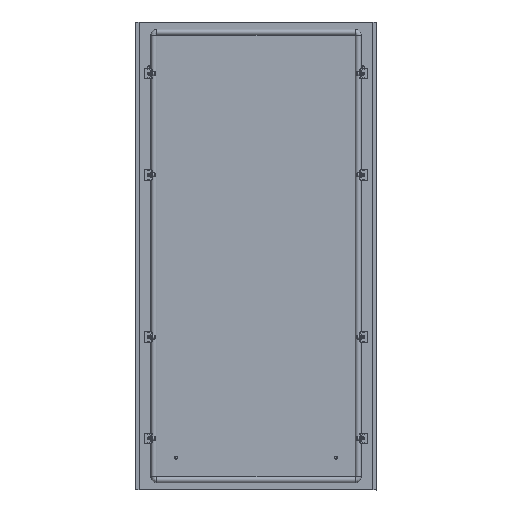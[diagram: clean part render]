
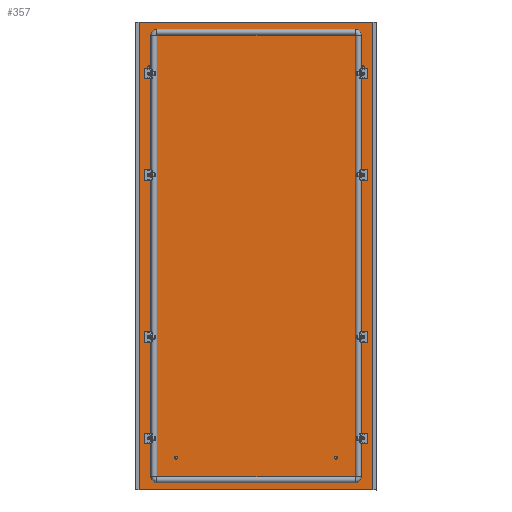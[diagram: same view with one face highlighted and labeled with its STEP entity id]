
A CAD part, top view. The second image highlights one B-rep face of the part: STEP entity #357.
In plain terms, the highlighted planar face has unit normal (0, 0, 1).
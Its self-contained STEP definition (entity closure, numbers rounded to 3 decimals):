
#357 = ADVANCED_FACE('',(#358,#456,#467,#478,#498,#518,#529,#540,#560),
  #580,.F.);
#358 = FACE_BOUND('',#359,.T.);
#359 = EDGE_LOOP('',(#360,#370,#378,#386,#394,#402,#410,#418,#426,#434,
    #442,#450));
#360 = ORIENTED_EDGE('',*,*,#361,.F.);
#361 = EDGE_CURVE('',#362,#364,#366,.T.);
#362 = VERTEX_POINT('',#363);
#363 = CARTESIAN_POINT('',(-295.5,577.5,0.));
#364 = VERTEX_POINT('',#365);
#365 = CARTESIAN_POINT('',(-295.3,577.5,0.));
#366 = LINE('',#367,#368);
#367 = CARTESIAN_POINT('',(0.,577.5,0.)
  );
#368 = VECTOR('',#369,1.);
#369 = DIRECTION('',(1.,0.,0.));
#370 = ORIENTED_EDGE('',*,*,#371,.T.);
#371 = EDGE_CURVE('',#362,#372,#374,.T.);
#372 = VERTEX_POINT('',#373);
#373 = CARTESIAN_POINT('',(-295.5,-577.5,
    0.));
#374 = LINE('',#375,#376);
#375 = CARTESIAN_POINT('',(-295.5,0.,
    0.));
#376 = VECTOR('',#377,1.);
#377 = DIRECTION('',(0.,-1.,0.));
#378 = ORIENTED_EDGE('',*,*,#379,.T.);
#379 = EDGE_CURVE('',#372,#380,#382,.T.);
#380 = VERTEX_POINT('',#381);
#381 = CARTESIAN_POINT('',(-295.3,-577.5,
    0.));
#382 = LINE('',#383,#384);
#383 = CARTESIAN_POINT('',(0.,-577.5,
    0.));
#384 = VECTOR('',#385,1.);
#385 = DIRECTION('',(1.,-0.,-0.));
#386 = ORIENTED_EDGE('',*,*,#387,.F.);
#387 = EDGE_CURVE('',#388,#380,#390,.T.);
#388 = VERTEX_POINT('',#389);
#389 = CARTESIAN_POINT('',(-295.3,-576.,
    0.));
#390 = LINE('',#391,#392);
#391 = CARTESIAN_POINT('',(-295.3,0.,
    0.));
#392 = VECTOR('',#393,1.);
#393 = DIRECTION('',(0.,-1.,0.));
#394 = ORIENTED_EDGE('',*,*,#395,.T.);
#395 = EDGE_CURVE('',#388,#396,#398,.T.);
#396 = VERTEX_POINT('',#397);
#397 = CARTESIAN_POINT('',(295.3,-576.,
    0.));
#398 = LINE('',#399,#400);
#399 = CARTESIAN_POINT('',(0.,-576.,
    0.));
#400 = VECTOR('',#401,1.);
#401 = DIRECTION('',(1.,-0.,-0.));
#402 = ORIENTED_EDGE('',*,*,#403,.T.);
#403 = EDGE_CURVE('',#396,#404,#406,.T.);
#404 = VERTEX_POINT('',#405);
#405 = CARTESIAN_POINT('',(295.3,-577.5,0.));
#406 = LINE('',#407,#408);
#407 = CARTESIAN_POINT('',(295.3,-576.,
    0.));
#408 = VECTOR('',#409,1.);
#409 = DIRECTION('',(0.,-1.,0.));
#410 = ORIENTED_EDGE('',*,*,#411,.F.);
#411 = EDGE_CURVE('',#412,#404,#414,.T.);
#412 = VERTEX_POINT('',#413);
#413 = CARTESIAN_POINT('',(295.5,-577.5,0.));
#414 = LINE('',#415,#416);
#415 = CARTESIAN_POINT('',(0.,-577.5,0.)
  );
#416 = VECTOR('',#417,1.);
#417 = DIRECTION('',(-1.,0.,0.));
#418 = ORIENTED_EDGE('',*,*,#419,.T.);
#419 = EDGE_CURVE('',#412,#420,#422,.T.);
#420 = VERTEX_POINT('',#421);
#421 = CARTESIAN_POINT('',(295.5,577.5,0.));
#422 = LINE('',#423,#424);
#423 = CARTESIAN_POINT('',(295.5,0.,0.));
#424 = VECTOR('',#425,1.);
#425 = DIRECTION('',(0.,1.,0.));
#426 = ORIENTED_EDGE('',*,*,#427,.T.);
#427 = EDGE_CURVE('',#420,#428,#430,.T.);
#428 = VERTEX_POINT('',#429);
#429 = CARTESIAN_POINT('',(295.3,577.5,0.));
#430 = LINE('',#431,#432);
#431 = CARTESIAN_POINT('',(0.,577.5,0.)
  );
#432 = VECTOR('',#433,1.);
#433 = DIRECTION('',(-1.,0.,0.));
#434 = ORIENTED_EDGE('',*,*,#435,.F.);
#435 = EDGE_CURVE('',#436,#428,#438,.T.);
#436 = VERTEX_POINT('',#437);
#437 = CARTESIAN_POINT('',(295.3,576.,0.));
#438 = LINE('',#439,#440);
#439 = CARTESIAN_POINT('',(295.3,0.,
    0.));
#440 = VECTOR('',#441,1.);
#441 = DIRECTION('',(0.,1.,0.));
#442 = ORIENTED_EDGE('',*,*,#443,.T.);
#443 = EDGE_CURVE('',#436,#444,#446,.T.);
#444 = VERTEX_POINT('',#445);
#445 = CARTESIAN_POINT('',(-295.3,576.,0.));
#446 = LINE('',#447,#448);
#447 = CARTESIAN_POINT('',(0.,576.,0.));
#448 = VECTOR('',#449,1.);
#449 = DIRECTION('',(-1.,0.,0.));
#450 = ORIENTED_EDGE('',*,*,#451,.T.);
#451 = EDGE_CURVE('',#444,#364,#452,.T.);
#452 = LINE('',#453,#454);
#453 = CARTESIAN_POINT('',(-295.3,576.,0.));
#454 = VECTOR('',#455,1.);
#455 = DIRECTION('',(0.,1.,0.));
#456 = FACE_BOUND('',#457,.T.);
#457 = EDGE_LOOP('',(#458));
#458 = ORIENTED_EDGE('',*,*,#459,.T.);
#459 = EDGE_CURVE('',#460,#460,#462,.T.);
#460 = VERTEX_POINT('',#461);
#461 = CARTESIAN_POINT('',(-264.5,-195.25,
    0.));
#462 = CIRCLE('',#463,4.75);
#463 = AXIS2_PLACEMENT_3D('',#464,#465,#466);
#464 = CARTESIAN_POINT('',(-264.5,-200.,
    0.));
#465 = DIRECTION('',(0.,0.,-1.));
#466 = DIRECTION('',(0.,1.,0.));
#467 = FACE_BOUND('',#468,.T.);
#468 = EDGE_LOOP('',(#469));
#469 = ORIENTED_EDGE('',*,*,#470,.T.);
#470 = EDGE_CURVE('',#471,#471,#473,.T.);
#471 = VERTEX_POINT('',#472);
#472 = CARTESIAN_POINT('',(264.5,-204.75,
    0.));
#473 = CIRCLE('',#474,4.75);
#474 = AXIS2_PLACEMENT_3D('',#475,#476,#477);
#475 = CARTESIAN_POINT('',(264.5,-200.,
    0.));
#476 = DIRECTION('',(-0.,0.,-1.));
#477 = DIRECTION('',(0.,-1.,0.));
#478 = FACE_BOUND('',#479,.T.);
#479 = EDGE_LOOP('',(#480,#491));
#480 = ORIENTED_EDGE('',*,*,#481,.F.);
#481 = EDGE_CURVE('',#482,#484,#486,.T.);
#482 = VERTEX_POINT('',#483);
#483 = CARTESIAN_POINT('',(-264.5,454.75,
    0.));
#484 = VERTEX_POINT('',#485);
#485 = CARTESIAN_POINT('',(-264.5,445.25,
    0.));
#486 = CIRCLE('',#487,4.75);
#487 = AXIS2_PLACEMENT_3D('',#488,#489,#490);
#488 = CARTESIAN_POINT('',(-264.5,450.,
    0.));
#489 = DIRECTION('',(0.,0.,1.));
#490 = DIRECTION('',(0.,1.,0.));
#491 = ORIENTED_EDGE('',*,*,#492,.F.);
#492 = EDGE_CURVE('',#484,#482,#493,.T.);
#493 = CIRCLE('',#494,4.75);
#494 = AXIS2_PLACEMENT_3D('',#495,#496,#497);
#495 = CARTESIAN_POINT('',(-264.5,450.,
    0.));
#496 = DIRECTION('',(0.,0.,1.));
#497 = DIRECTION('',(0.,1.,0.));
#498 = FACE_BOUND('',#499,.T.);
#499 = EDGE_LOOP('',(#500,#511));
#500 = ORIENTED_EDGE('',*,*,#501,.F.);
#501 = EDGE_CURVE('',#502,#504,#506,.T.);
#502 = VERTEX_POINT('',#503);
#503 = CARTESIAN_POINT('',(264.5,445.25,
    0.));
#504 = VERTEX_POINT('',#505);
#505 = CARTESIAN_POINT('',(264.5,454.75,
    0.));
#506 = CIRCLE('',#507,4.75);
#507 = AXIS2_PLACEMENT_3D('',#508,#509,#510);
#508 = CARTESIAN_POINT('',(264.5,450.,
    0.));
#509 = DIRECTION('',(0.,0.,1.));
#510 = DIRECTION('',(0.,-1.,0.));
#511 = ORIENTED_EDGE('',*,*,#512,.F.);
#512 = EDGE_CURVE('',#504,#502,#513,.T.);
#513 = CIRCLE('',#514,4.75);
#514 = AXIS2_PLACEMENT_3D('',#515,#516,#517);
#515 = CARTESIAN_POINT('',(264.5,450.,
    0.));
#516 = DIRECTION('',(0.,0.,1.));
#517 = DIRECTION('',(0.,-1.,0.));
#518 = FACE_BOUND('',#519,.T.);
#519 = EDGE_LOOP('',(#520));
#520 = ORIENTED_EDGE('',*,*,#521,.T.);
#521 = EDGE_CURVE('',#522,#522,#524,.T.);
#522 = VERTEX_POINT('',#523);
#523 = CARTESIAN_POINT('',(-264.5,-445.25,
    0.));
#524 = CIRCLE('',#525,4.75);
#525 = AXIS2_PLACEMENT_3D('',#526,#527,#528);
#526 = CARTESIAN_POINT('',(-264.5,-450.,
    0.));
#527 = DIRECTION('',(0.,0.,-1.));
#528 = DIRECTION('',(0.,1.,0.));
#529 = FACE_BOUND('',#530,.T.);
#530 = EDGE_LOOP('',(#531));
#531 = ORIENTED_EDGE('',*,*,#532,.T.);
#532 = EDGE_CURVE('',#533,#533,#535,.T.);
#533 = VERTEX_POINT('',#534);
#534 = CARTESIAN_POINT('',(264.5,-454.75,
    0.));
#535 = CIRCLE('',#536,4.75);
#536 = AXIS2_PLACEMENT_3D('',#537,#538,#539);
#537 = CARTESIAN_POINT('',(264.5,-450.,
    0.));
#538 = DIRECTION('',(-0.,0.,-1.));
#539 = DIRECTION('',(0.,-1.,0.));
#540 = FACE_BOUND('',#541,.T.);
#541 = EDGE_LOOP('',(#542,#553));
#542 = ORIENTED_EDGE('',*,*,#543,.F.);
#543 = EDGE_CURVE('',#544,#546,#548,.T.);
#544 = VERTEX_POINT('',#545);
#545 = CARTESIAN_POINT('',(264.5,195.25,
    0.));
#546 = VERTEX_POINT('',#547);
#547 = CARTESIAN_POINT('',(264.5,204.75,
    0.));
#548 = CIRCLE('',#549,4.75);
#549 = AXIS2_PLACEMENT_3D('',#550,#551,#552);
#550 = CARTESIAN_POINT('',(264.5,200.,
    0.));
#551 = DIRECTION('',(0.,0.,1.));
#552 = DIRECTION('',(0.,-1.,0.));
#553 = ORIENTED_EDGE('',*,*,#554,.F.);
#554 = EDGE_CURVE('',#546,#544,#555,.T.);
#555 = CIRCLE('',#556,4.75);
#556 = AXIS2_PLACEMENT_3D('',#557,#558,#559);
#557 = CARTESIAN_POINT('',(264.5,200.,
    0.));
#558 = DIRECTION('',(0.,0.,1.));
#559 = DIRECTION('',(0.,-1.,0.));
#560 = FACE_BOUND('',#561,.T.);
#561 = EDGE_LOOP('',(#562,#573));
#562 = ORIENTED_EDGE('',*,*,#563,.F.);
#563 = EDGE_CURVE('',#564,#566,#568,.T.);
#564 = VERTEX_POINT('',#565);
#565 = CARTESIAN_POINT('',(-264.5,204.75,
    0.));
#566 = VERTEX_POINT('',#567);
#567 = CARTESIAN_POINT('',(-264.5,195.25,
    0.));
#568 = CIRCLE('',#569,4.75);
#569 = AXIS2_PLACEMENT_3D('',#570,#571,#572);
#570 = CARTESIAN_POINT('',(-264.5,200.,
    0.));
#571 = DIRECTION('',(0.,0.,1.));
#572 = DIRECTION('',(0.,1.,0.));
#573 = ORIENTED_EDGE('',*,*,#574,.F.);
#574 = EDGE_CURVE('',#566,#564,#575,.T.);
#575 = CIRCLE('',#576,4.75);
#576 = AXIS2_PLACEMENT_3D('',#577,#578,#579);
#577 = CARTESIAN_POINT('',(-264.5,200.,
    0.));
#578 = DIRECTION('',(0.,0.,1.));
#579 = DIRECTION('',(0.,1.,0.));
#580 = PLANE('',#581);
#581 = AXIS2_PLACEMENT_3D('',#582,#583,#584);
#582 = CARTESIAN_POINT('',(0.,0.,
    0.));
#583 = DIRECTION('',(0.,0.,-1.));
#584 = DIRECTION('',(-1.,0.,0.));
